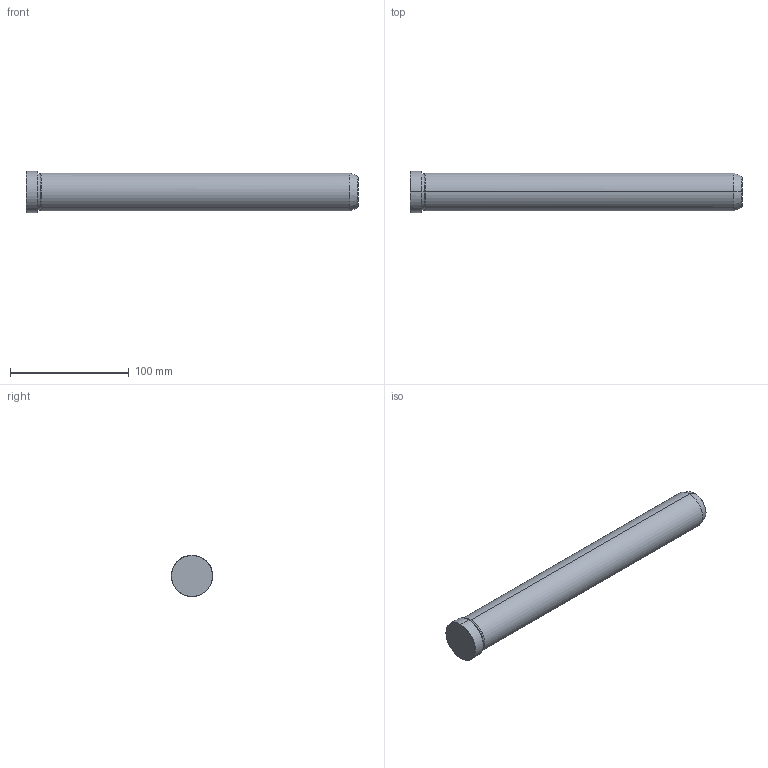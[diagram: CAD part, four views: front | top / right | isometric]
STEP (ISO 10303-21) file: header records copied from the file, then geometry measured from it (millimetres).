
FILE_DESCRIPTION(('CATIA V5 STEP Exchange'),'2;1');
FILE_NAME('C:\Users\Utente\Desktop\IO LAVORO\3D X SITO CF\X SITO\PLASTICA\549\549-32X280.stp','2021-12-18T07:56:59+00:00',('none'),('none'),'CATIA Version 5 Release 20 GA (IN-10)','CATIA V5 STEP AP203','none');
FILE_SCHEMA(('CONFIG_CONTROL_DESIGN'));
Length unit declared in the file: millimetre
Products named in the file (1): 549-32X280
Bounding box: 280 x 35 x 35 mm (x, y, z)
Volume: 225694.5 mm3; surface area: 29898.7 mm2
Topology: 1 solids, 1 shells, 19 faces, 56 edges, 40 vertices
Faces by surface type: cone 8, cylinder 6, plane 3, torus 2
Entity records: 736 total; most frequent: CARTESIAN_POINT 192, ORIENTED_EDGE 112, DIRECTION 86, EDGE_CURVE 56, AXIS2_PLACEMENT_3D 54, VERTEX_POINT 40, CIRCLE 34, EDGE_LOOP 20
